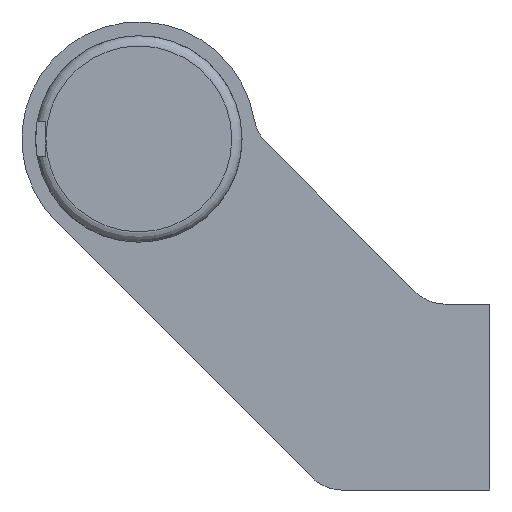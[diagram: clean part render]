
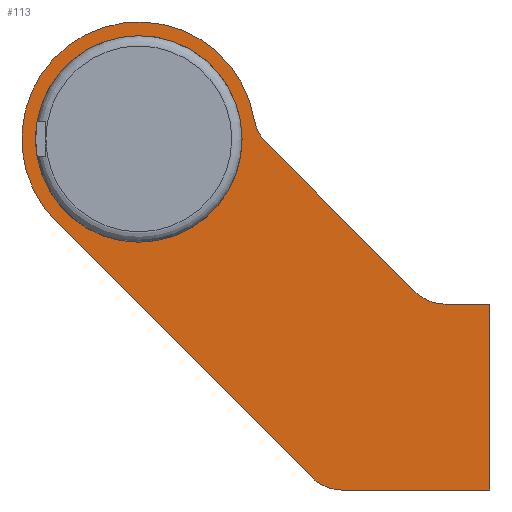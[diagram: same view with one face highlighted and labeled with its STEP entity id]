
A CAD part, left-side view. The second image highlights one B-rep face of the part: STEP entity #113.
In plain terms, the highlighted planar face has unit normal (-1, 0, 0).
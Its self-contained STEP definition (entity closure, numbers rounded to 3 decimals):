
#113 = ADVANCED_FACE( '', ( #212, #213 ), #214, .F. );
#212 = FACE_BOUND( '', #325, .T. );
#213 = FACE_OUTER_BOUND( '', #326, .T. );
#214 = PLANE( '', #327 );
#325 = EDGE_LOOP( '', ( #621 ) );
#326 = EDGE_LOOP( '', ( #622, #623, #624, #625, #626, #627, #628, #629, #630 ) );
#327 = AXIS2_PLACEMENT_3D( '', #631, #632, #633 );
#621 = ORIENTED_EDGE( '', *, *, #734, .T. );
#622 = ORIENTED_EDGE( '', *, *, #761, .F. );
#623 = ORIENTED_EDGE( '', *, *, #735, .F. );
#624 = ORIENTED_EDGE( '', *, *, #739, .F. );
#625 = ORIENTED_EDGE( '', *, *, #743, .F. );
#626 = ORIENTED_EDGE( '', *, *, #746, .F. );
#627 = ORIENTED_EDGE( '', *, *, #749, .T. );
#628 = ORIENTED_EDGE( '', *, *, #752, .F. );
#629 = ORIENTED_EDGE( '', *, *, #755, .T. );
#630 = ORIENTED_EDGE( '', *, *, #758, .F. );
#631 = CARTESIAN_POINT( '', ( -508.5, 51., 37.5 ) );
#632 = DIRECTION( '', ( 1., 0., 0. ) );
#633 = DIRECTION( '', ( 0., 0., -1. ) );
#734 = EDGE_CURVE( '', #866, #866, #867, .T. );
#735 = EDGE_CURVE( '', #868, #869, #870, .T. );
#739 = EDGE_CURVE( '', #876, #868, #877, .T. );
#743 = EDGE_CURVE( '', #883, #876, #884, .T. );
#746 = EDGE_CURVE( '', #888, #883, #889, .T. );
#749 = EDGE_CURVE( '', #888, #893, #894, .T. );
#752 = EDGE_CURVE( '', #898, #893, #899, .T. );
#755 = EDGE_CURVE( '', #898, #903, #904, .T. );
#758 = EDGE_CURVE( '', #908, #903, #909, .T. );
#761 = EDGE_CURVE( '', #869, #908, #913, .T. );
#866 = VERTEX_POINT( '', #1114 );
#867 = CIRCLE( '', #1115, 15. );
#868 = VERTEX_POINT( '', #1116 );
#869 = VERTEX_POINT( '', #1117 );
#870 = CIRCLE( '', #1118, 6. );
#876 = VERTEX_POINT( '', #1126 );
#877 = LINE( '', #1127, #1128 );
#883 = VERTEX_POINT( '', #1136 );
#884 = LINE( '', #1137, #1138 );
#888 = VERTEX_POINT( '', #1144 );
#889 = LINE( '', #1145, #1146 );
#893 = VERTEX_POINT( '', #1152 );
#894 = CIRCLE( '', #1153, 6. );
#898 = VERTEX_POINT( '', #1158 );
#899 = LINE( '', #1159, #1160 );
#903 = VERTEX_POINT( '', #1166 );
#904 = CIRCLE( '', #1167, 6. );
#908 = VERTEX_POINT( '', #1172 );
#909 = CIRCLE( '', #1173, 17. );
#913 = LINE( '', #1178, #1179 );
#1114 = CARTESIAN_POINT( '', ( -508.5, 51., 22.5 ) );
#1115 = AXIS2_PLACEMENT_3D( '', #1285, #1286, #1287 );
#1116 = CARTESIAN_POINT( '', ( -508.5, 21.556, -13.5 ) );
#1117 = CARTESIAN_POINT( '', ( -508.5, 25.799, -11.743 ) );
#1118 = AXIS2_PLACEMENT_3D( '', #1288, #1289, #1290 );
#1126 = CARTESIAN_POINT( '', ( -508.5, 0., -13.5 ) );
#1127 = CARTESIAN_POINT( '', ( -508.5, 0., -13.5 ) );
#1128 = VECTOR( '', #1296, 1000. );
#1136 = CARTESIAN_POINT( '', ( -508.5, 0., 13.5 ) );
#1137 = CARTESIAN_POINT( '', ( -508.5, 0., 13.5 ) );
#1138 = VECTOR( '', #1302, 1000. );
#1144 = CARTESIAN_POINT( '', ( -508.5, 6.515, 13.5 ) );
#1145 = CARTESIAN_POINT( '', ( -508.5, 6.515, 13.5 ) );
#1146 = VECTOR( '', #1305, 1000. );
#1152 = CARTESIAN_POINT( '', ( -508.5, 10.757, 15.257 ) );
#1153 = AXIS2_PLACEMENT_3D( '', #1308, #1309, #1310 );
#1158 = CARTESIAN_POINT( '', ( -508.5, 32.559, 37.059 ) );
#1159 = CARTESIAN_POINT( '', ( -508.5, 32.559, 37.059 ) );
#1160 = VECTOR( '', #1315, 1000. );
#1166 = CARTESIAN_POINT( '', ( -508.5, 34.234, 40.31 ) );
#1167 = AXIS2_PLACEMENT_3D( '', #1318, #1319, #1320 );
#1172 = CARTESIAN_POINT( '', ( -508.5, 63.021, 25.479 ) );
#1173 = AXIS2_PLACEMENT_3D( '', #1325, #1326, #1327 );
#1178 = CARTESIAN_POINT( '', ( -508.5, 25.799, -11.743 ) );
#1179 = VECTOR( '', #1332, 1000. );
#1285 = CARTESIAN_POINT( '', ( -508.5, 51., 37.5 ) );
#1286 = DIRECTION( '', ( 1., 0., 0. ) );
#1287 = DIRECTION( '', ( 0., 0., -1. ) );
#1288 = CARTESIAN_POINT( '', ( -508.5, 21.556, -7.5 ) );
#1289 = DIRECTION( '', ( 1., 0., 0. ) );
#1290 = DIRECTION( '', ( 0., 0., -1. ) );
#1296 = DIRECTION( '', ( 0., 1., 0. ) );
#1302 = DIRECTION( '', ( 0., 0., -1. ) );
#1305 = DIRECTION( '', ( 0., -1., 0. ) );
#1308 = CARTESIAN_POINT( '', ( -508.5, 6.515, 19.5 ) );
#1309 = DIRECTION( '', ( 1., 0., 0. ) );
#1310 = DIRECTION( '', ( 0., 0., -1. ) );
#1315 = DIRECTION( '', ( 0., -0.707, -0.707 ) );
#1318 = CARTESIAN_POINT( '', ( -508.5, 28.316, 41.302 ) );
#1319 = DIRECTION( '', ( 1., 0., 0. ) );
#1320 = DIRECTION( '', ( 0., 0., -1. ) );
#1325 = CARTESIAN_POINT( '', ( -508.5, 51., 37.5 ) );
#1326 = DIRECTION( '', ( 1., 0., 0. ) );
#1327 = DIRECTION( '', ( 0., 0., -1. ) );
#1332 = DIRECTION( '', ( 0., 0.707, 0.707 ) );
